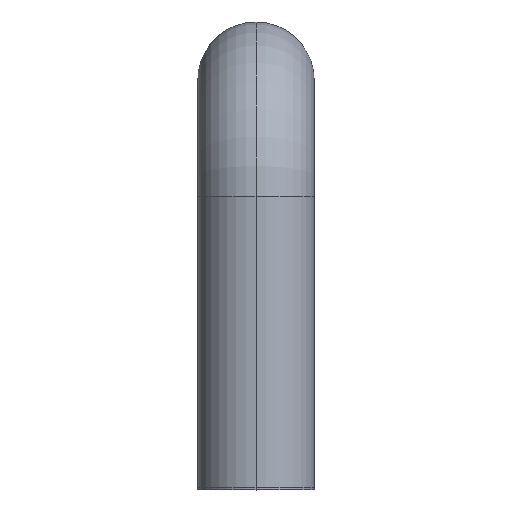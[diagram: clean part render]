
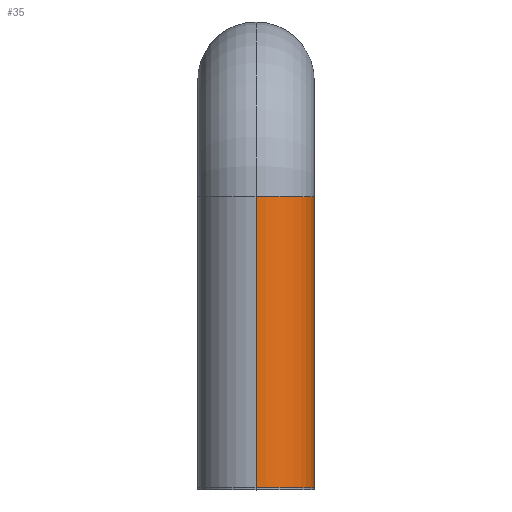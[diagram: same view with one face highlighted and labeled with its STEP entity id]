
A CAD part, top view. The second image highlights one B-rep face of the part: STEP entity #35.
In plain terms, the highlighted cylindrical face has radius 5 mm (diameter 10 mm), a partial arc.
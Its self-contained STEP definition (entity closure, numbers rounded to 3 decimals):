
#29 = DIRECTION ( 'NONE',  ( 0., 1., 0. ) ) ;
#35 = ADVANCED_FACE ( 'NONE', ( #276 ), #179, .T. ) ;
#49 = CARTESIAN_POINT ( 'NONE',  ( 0., 25., 5. ) ) ;
#59 = EDGE_CURVE ( 'NONE', #436, #216, #73, .T. ) ;
#73 = LINE ( 'NONE', #379, #320 ) ;
#75 = CIRCLE ( 'NONE', #553, 5. ) ;
#128 = DIRECTION ( 'NONE',  ( 0., 1., 0. ) ) ;
#130 = LINE ( 'NONE', #414, #565 ) ;
#145 = VERTEX_POINT ( 'NONE', #334 ) ;
#173 = DIRECTION ( 'NONE',  ( 0., 1., 0. ) ) ;
#179 = CYLINDRICAL_SURFACE ( 'NONE', #349, 5. ) ;
#181 = EDGE_LOOP ( 'NONE', ( #211, #240, #260, #363 ) ) ;
#211 = ORIENTED_EDGE ( 'NONE', *, *, #253, .T. ) ;
#216 = VERTEX_POINT ( 'NONE', #49 ) ;
#221 = AXIS2_PLACEMENT_3D ( 'NONE', #588, #453, #497 ) ;
#223 = CARTESIAN_POINT ( 'NONE',  ( 0., 25., 0. ) ) ;
#233 = DIRECTION ( 'NONE',  ( 0., 0., 1. ) ) ;
#240 = ORIENTED_EDGE ( 'NONE', *, *, #348, .T. ) ;
#245 = VERTEX_POINT ( 'NONE', #586 ) ;
#251 = DIRECTION ( 'NONE',  ( 0., 1., 0. ) ) ;
#253 = EDGE_CURVE ( 'NONE', #436, #145, #543, .T. ) ;
#260 = ORIENTED_EDGE ( 'NONE', *, *, #357, .F. ) ;
#276 = FACE_OUTER_BOUND ( 'NONE', #181, .T. ) ;
#320 = VECTOR ( 'NONE', #251, 1000. ) ;
#334 = CARTESIAN_POINT ( 'NONE',  ( 0., 0., -5. ) ) ;
#348 = EDGE_CURVE ( 'NONE', #145, #245, #130, .T. ) ;
#349 = AXIS2_PLACEMENT_3D ( 'NONE', #469, #29, #233 ) ;
#357 = EDGE_CURVE ( 'NONE', #216, #245, #75, .T. ) ;
#363 = ORIENTED_EDGE ( 'NONE', *, *, #59, .F. ) ;
#379 = CARTESIAN_POINT ( 'NONE',  ( 0., 0., 5. ) ) ;
#411 = DIRECTION ( 'NONE',  ( 0., 0., 1. ) ) ;
#414 = CARTESIAN_POINT ( 'NONE',  ( 0., 0., -5. ) ) ;
#436 = VERTEX_POINT ( 'NONE', #607 ) ;
#453 = DIRECTION ( 'NONE',  ( 0., 1., 0. ) ) ;
#469 = CARTESIAN_POINT ( 'NONE',  ( 0., 0., 0. ) ) ;
#497 = DIRECTION ( 'NONE',  ( 0., 0., 1. ) ) ;
#543 = CIRCLE ( 'NONE', #221, 5. ) ;
#553 = AXIS2_PLACEMENT_3D ( 'NONE', #223, #173, #411 ) ;
#565 = VECTOR ( 'NONE', #128, 1000. ) ;
#586 = CARTESIAN_POINT ( 'NONE',  ( 0., 25., -5. ) ) ;
#588 = CARTESIAN_POINT ( 'NONE',  ( 0., 0., 0. ) ) ;
#607 = CARTESIAN_POINT ( 'NONE',  ( 0., 0., 5. ) ) ;
